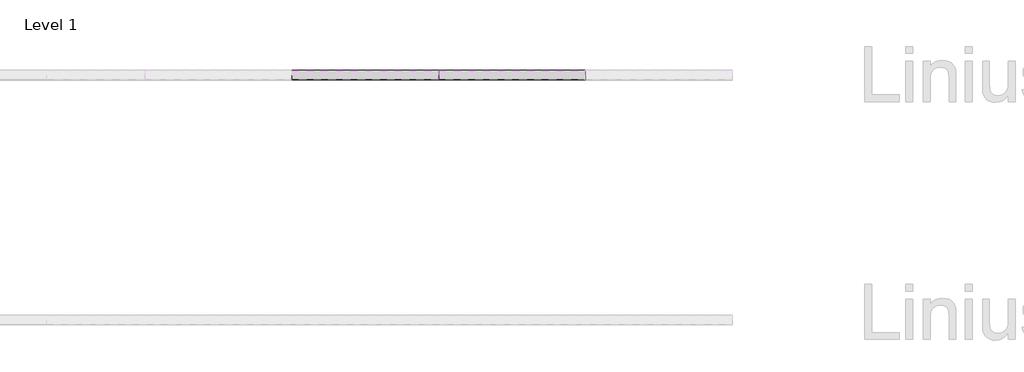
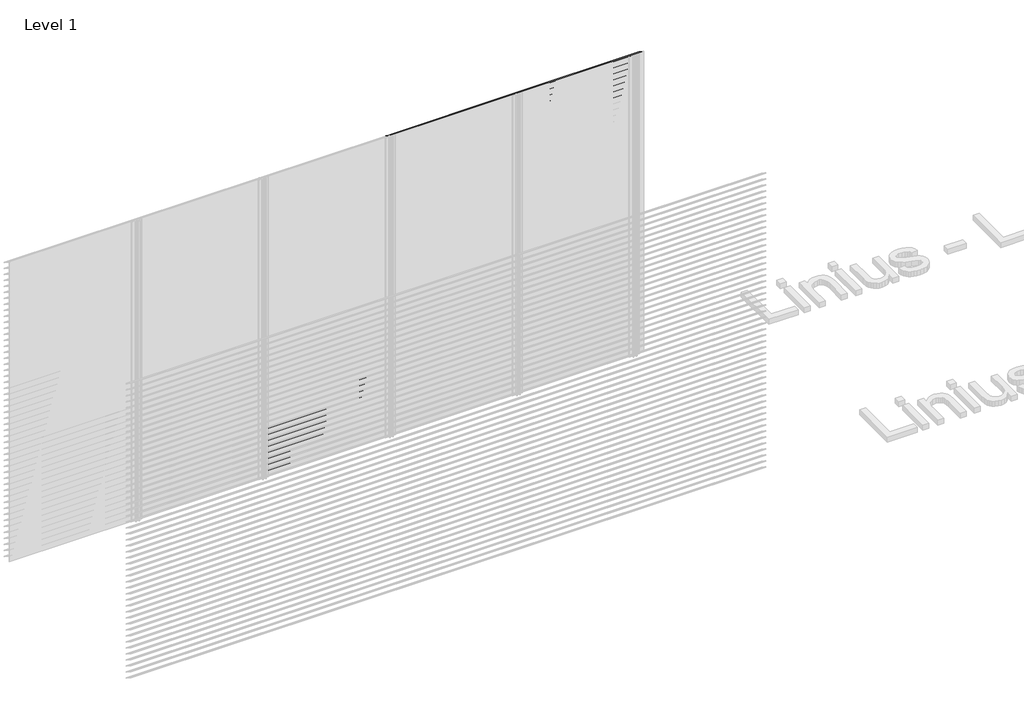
# One storey, part 9 of 153: 84 proxies.
"""IFC4 building model written with IfcOpenShell, lengths in millimetres."""

from ifc_helpers import new_model, si_unit, frame, origin, place, context, project, spatial, polyline, outline, extrude, element, save

model = new_model("IFC4")

# Units and contexts
model_context = context("Model", 3, world=origin())
ifc_project = project(units=[si_unit("LENGTHUNIT", "METRE", prefix="MILLI")], contexts=[model_context])

# Site, building, storey
site = spatial("IfcSite", under=ifc_project)
building = spatial("IfcBuilding", under=site)
storey = spatial("IfcBuildingStorey", under=building, Name="Level 1", Elevation=0.0)

# Proxies
placement = place(None, origin())
element("IfcBuildingElementProxy", 1, Name="Wall Sweeps", at=placement, inside=storey, context=model_context, shape_type="SweptSolid", body=[
    extrude(outline(polyline([(7065.0270068, 1566.0), (7065.0270068, 1560.0), (7063.7770068, 1560.7216933), (7063.7770068, 1565.2538091), (6987.0270068, 1613.9915103), (6987.0270068, 1620.0), (6988.2770068, 1620.0), (6988.2770068, 1614.7377012), (7065.0270068, 1566.0)])), frame((2866.6208097, 0.0, 0.0), z_axis=(1.0, 0.0, 0.0), x_axis=(0.0, 1.0, 0.0)), (0.0, 0.0, 1.0), 1199.9999999),
])
element("IfcBuildingElementProxy", 2, Name="Wall Sweeps", at=placement, inside=storey, context=model_context, shape_type="SweptSolid", body=[
    extrude(outline(polyline([(7065.0270068, 1506.0), (7065.0270068, 1500.0), (7063.7770068, 1500.7216933), (7063.7770068, 1505.2538091), (6987.0270068, 1553.9915103), (6987.0270068, 1560.0), (6988.2770068, 1560.0), (6988.2770068, 1554.7377012), (7065.0270068, 1506.0)])), frame((2866.6208097, 0.0, 0.0), z_axis=(1.0, 0.0, 0.0), x_axis=(0.0, 1.0, 0.0)), (0.0, 0.0, 1.0), 1199.9999999),
])
element("IfcBuildingElementProxy", 3, Name="Wall Sweeps", at=placement, inside=storey, context=model_context, shape_type="SweptSolid", body=[
    extrude(outline(polyline([(7065.0270068, 1446.0), (7065.0270068, 1440.0), (7063.7770068, 1440.7216933), (7063.7770068, 1445.2538091), (6987.0270068, 1493.9915103), (6987.0270068, 1500.0), (6988.2770068, 1500.0), (6988.2770068, 1494.7377012), (7065.0270068, 1446.0)])), frame((2866.6208097, 0.0, 0.0), z_axis=(1.0, 0.0, 0.0), x_axis=(0.0, 1.0, 0.0)), (0.0, 0.0, 1.0), 1199.9999999),
])
element("IfcBuildingElementProxy", 4, Name="Wall Sweeps", at=placement, inside=storey, context=model_context, shape_type="SweptSolid", body=[
    extrude(outline(polyline([(7065.0270068, 1386.0), (7065.0270068, 1380.0), (7063.7770068, 1380.7216933), (7063.7770068, 1385.2538091), (6987.0270068, 1433.9915103), (6987.0270068, 1440.0), (6988.2770068, 1440.0), (6988.2770068, 1434.7377012), (7065.0270068, 1386.0)])), frame((2866.6208097, 0.0, 0.0), z_axis=(1.0, 0.0, 0.0), x_axis=(0.0, 1.0, 0.0)), (0.0, 0.0, 1.0), 1199.9999999),
])
element("IfcBuildingElementProxy", 5, Name="Wall Sweeps", at=placement, inside=storey, context=model_context, shape_type="SweptSolid", body=[
    extrude(outline(polyline([(7065.0270068, 1326.0), (7065.0270068, 1320.0), (7063.7770068, 1320.7216933), (7063.7770068, 1325.2538091), (6987.0270068, 1373.9915103), (6987.0270068, 1380.0), (6988.2770068, 1380.0), (6988.2770068, 1374.7377012), (7065.0270068, 1326.0)])), frame((2866.6208097, 0.0, 0.0), z_axis=(1.0, 0.0, 0.0), x_axis=(0.0, 1.0, 0.0)), (0.0, 0.0, 1.0), 1199.9999999),
])
element("IfcBuildingElementProxy", 6, Name="Wall Sweeps", at=placement, inside=storey, context=model_context, shape_type="SweptSolid", body=[
    extrude(outline(polyline([(7065.0270068, 1266.0), (7065.0270068, 1260.0), (7063.7770068, 1260.7216933), (7063.7770068, 1265.2538091), (6987.0270068, 1313.9915103), (6987.0270068, 1320.0), (6988.2770068, 1320.0), (6988.2770068, 1314.7377012), (7065.0270068, 1266.0)])), frame((2866.6208097, 0.0, 0.0), z_axis=(1.0, 0.0, 0.0), x_axis=(0.0, 1.0, 0.0)), (0.0, 0.0, 1.0), 1199.9999999),
])
element("IfcBuildingElementProxy", 7, Name="Wall Sweeps", at=placement, inside=storey, context=model_context, shape_type="SweptSolid", body=[
    extrude(outline(polyline([(7065.0270068, 1206.0), (7065.0270068, 1200.0), (7063.7770068, 1200.7216933), (7063.7770068, 1205.2538091), (6987.0270068, 1253.9915103), (6987.0270068, 1260.0), (6988.2770068, 1260.0), (6988.2770068, 1254.7377012), (7065.0270068, 1206.0)])), frame((2866.6208097, 0.0, 0.0), z_axis=(1.0, 0.0, 0.0), x_axis=(0.0, 1.0, 0.0)), (0.0, 0.0, 1.0), 1199.9999999),
])
element("IfcBuildingElementProxy", 8, Name="Wall Sweeps", at=placement, inside=storey, context=model_context, shape_type="SweptSolid", body=[
    extrude(outline(polyline([(7065.0270068, 1146.0), (7065.0270068, 1140.0), (7063.7770068, 1140.7216933), (7063.7770068, 1145.2538091), (6987.0270068, 1193.9915103), (6987.0270068, 1200.0), (6988.2770068, 1200.0), (6988.2770068, 1194.7377012), (7065.0270068, 1146.0)])), frame((2866.6208097, 0.0, 0.0), z_axis=(1.0, 0.0, 0.0), x_axis=(0.0, 1.0, 0.0)), (0.0, 0.0, 1.0), 1199.9999999),
])
element("IfcBuildingElementProxy", 9, Name="Wall Sweeps", at=placement, inside=storey, context=model_context, shape_type="SweptSolid", body=[
    extrude(outline(polyline([(7065.0270068, 1086.0), (7065.0270068, 1080.0), (7063.7770068, 1080.7216933), (7063.7770068, 1085.2538091), (6987.0270068, 1133.9915103), (6987.0270068, 1140.0), (6988.2770068, 1140.0), (6988.2770068, 1134.7377012), (7065.0270068, 1086.0)])), frame((2866.6208097, 0.0, 0.0), z_axis=(1.0, 0.0, 0.0), x_axis=(0.0, 1.0, 0.0)), (0.0, 0.0, 1.0), 1199.9999999),
])
element("IfcBuildingElementProxy", 10, Name="Wall Sweeps", at=placement, inside=storey, context=model_context, shape_type="SweptSolid", body=[
    extrude(outline(polyline([(7065.0270068, 1026.0), (7065.0270068, 1020.0), (7063.7770068, 1020.7216933), (7063.7770068, 1025.2538091), (6987.0270068, 1073.9915103), (6987.0270068, 1080.0), (6988.2770068, 1080.0), (6988.2770068, 1074.7377012), (7065.0270068, 1026.0)])), frame((2866.6208097, 0.0, 0.0), z_axis=(1.0, 0.0, 0.0), x_axis=(0.0, 1.0, 0.0)), (0.0, 0.0, 1.0), 1199.9999999),
])
element("IfcBuildingElementProxy", 11, Name="Wall Sweeps", at=placement, inside=storey, context=model_context, shape_type="SweptSolid", body=[
    extrude(outline(polyline([(7065.0270068, 966.0), (7065.0270068, 960.0), (7063.7770068, 960.7216933), (7063.7770068, 965.2538091), (6987.0270068, 1013.9915103), (6987.0270068, 1020.0), (6988.2770068, 1020.0), (6988.2770068, 1014.7377012), (7065.0270068, 966.0)])), frame((2866.6208097, 0.0, 0.0), z_axis=(1.0, 0.0, 0.0), x_axis=(0.0, 1.0, 0.0)), (0.0, 0.0, 1.0), 1199.9999999),
])
element("IfcBuildingElementProxy", 12, Name="Wall Sweeps", at=placement, inside=storey, context=model_context, shape_type="SweptSolid", body=[
    extrude(outline(polyline([(7065.0270068, 906.0), (7065.0270068, 900.0), (7063.7770068, 900.7216933), (7063.7770068, 905.2538091), (6987.0270068, 953.9915103), (6987.0270068, 960.0), (6988.2770068, 960.0), (6988.2770068, 954.7377012), (7065.0270068, 906.0)])), frame((2866.6208097, 0.0, 0.0), z_axis=(1.0, 0.0, 0.0), x_axis=(0.0, 1.0, 0.0)), (0.0, 0.0, 1.0), 1199.9999999),
])
element("IfcBuildingElementProxy", 13, Name="Wall Sweeps", at=placement, inside=storey, context=model_context, shape_type="SweptSolid", body=[
    extrude(outline(polyline([(7065.0270068, 846.0), (7065.0270068, 840.0), (7063.7770068, 840.7216933), (7063.7770068, 845.2538091), (6987.0270068, 893.9915103), (6987.0270068, 900.0), (6988.2770068, 900.0), (6988.2770068, 894.7377012), (7065.0270068, 846.0)])), frame((2866.6208097, 0.0, 0.0), z_axis=(1.0, 0.0, 0.0), x_axis=(0.0, 1.0, 0.0)), (0.0, 0.0, 1.0), 1199.9999999),
])
element("IfcBuildingElementProxy", 14, Name="Wall Sweeps", at=placement, inside=storey, context=model_context, shape_type="SweptSolid", body=[
    extrude(outline(polyline([(7065.0270068, 786.0), (7065.0270068, 780.0), (7063.7770068, 780.7216933), (7063.7770068, 785.2538091), (6987.0270068, 833.9915103), (6987.0270068, 840.0), (6988.2770068, 840.0), (6988.2770068, 834.7377012), (7065.0270068, 786.0)])), frame((2866.6208097, 0.0, 0.0), z_axis=(1.0, 0.0, 0.0), x_axis=(0.0, 1.0, 0.0)), (0.0, 0.0, 1.0), 1199.9999999),
])
element("IfcBuildingElementProxy", 15, Name="Wall Sweeps", at=placement, inside=storey, context=model_context, shape_type="SweptSolid", body=[
    extrude(outline(polyline([(7065.0270068, 726.0), (7065.0270068, 720.0), (7063.7770068, 720.7216933), (7063.7770068, 725.2538091), (6987.0270068, 773.9915103), (6987.0270068, 780.0), (6988.2770068, 780.0), (6988.2770068, 774.7377012), (7065.0270068, 726.0)])), frame((2866.6208097, 0.0, 0.0), z_axis=(1.0, 0.0, 0.0), x_axis=(0.0, 1.0, 0.0)), (0.0, 0.0, 1.0), 1199.9999999),
])
element("IfcBuildingElementProxy", 16, Name="Wall Sweeps", at=placement, inside=storey, context=model_context, shape_type="SweptSolid", body=[
    extrude(outline(polyline([(7065.0270068, 666.0), (7065.0270068, 660.0), (7063.7770068, 660.7216933), (7063.7770068, 665.2538091), (6987.0270068, 713.9915103), (6987.0270068, 720.0), (6988.2770068, 720.0), (6988.2770068, 714.7377012), (7065.0270068, 666.0)])), frame((2866.6208097, 0.0, 0.0), z_axis=(1.0, 0.0, 0.0), x_axis=(0.0, 1.0, 0.0)), (0.0, 0.0, 1.0), 1199.9999999),
])
element("IfcBuildingElementProxy", 17, Name="Wall Sweeps", at=placement, inside=storey, context=model_context, shape_type="SweptSolid", body=[
    extrude(outline(polyline([(7065.0270068, 606.0), (7065.0270068, 600.0), (7063.7770068, 600.7216933), (7063.7770068, 605.2538091), (6987.0270068, 653.9915103), (6987.0270068, 660.0), (6988.2770068, 660.0), (6988.2770068, 654.7377012), (7065.0270068, 606.0)])), frame((2866.6208097, 0.0, 0.0), z_axis=(1.0, 0.0, 0.0), x_axis=(0.0, 1.0, 0.0)), (0.0, 0.0, 1.0), 1199.9999999),
])
element("IfcBuildingElementProxy", 18, Name="Wall Sweeps", at=placement, inside=storey, context=model_context, shape_type="SweptSolid", body=[
    extrude(outline(polyline([(7065.0270068, 546.0), (7065.0270068, 540.0), (7063.7770068, 540.7216933), (7063.7770068, 545.2538091), (6987.0270068, 593.9915103), (6987.0270068, 600.0), (6988.2770068, 600.0), (6988.2770068, 594.7377012), (7065.0270068, 546.0)])), frame((2866.6208097, 0.0, 0.0), z_axis=(1.0, 0.0, 0.0), x_axis=(0.0, 1.0, 0.0)), (0.0, 0.0, 1.0), 1199.9999999),
])
element("IfcBuildingElementProxy", 19, Name="Wall Sweeps", at=placement, inside=storey, context=model_context, shape_type="SweptSolid", body=[
    extrude(outline(polyline([(7065.0270068, 486.0), (7065.0270068, 480.0), (7063.7770068, 480.7216933), (7063.7770068, 485.2538091), (6987.0270068, 533.9915103), (6987.0270068, 540.0), (6988.2770068, 540.0), (6988.2770068, 534.7377012), (7065.0270068, 486.0)])), frame((2866.6208097, 0.0, 0.0), z_axis=(1.0, 0.0, 0.0), x_axis=(0.0, 1.0, 0.0)), (0.0, 0.0, 1.0), 1199.9999999),
])
element("IfcBuildingElementProxy", 20, Name="Wall Sweeps", at=placement, inside=storey, context=model_context, shape_type="SweptSolid", body=[
    extrude(outline(polyline([(7065.0270068, 426.0), (7065.0270068, 420.0), (7063.7770068, 420.7216933), (7063.7770068, 425.2538091), (6987.0270068, 473.9915103), (6987.0270068, 480.0), (6988.2770068, 480.0), (6988.2770068, 474.7377012), (7065.0270068, 426.0)])), frame((2866.6208097, 0.0, 0.0), z_axis=(1.0, 0.0, 0.0), x_axis=(0.0, 1.0, 0.0)), (0.0, 0.0, 1.0), 1199.9999999),
])
element("IfcBuildingElementProxy", 21, Name="Wall Sweeps", at=placement, inside=storey, context=model_context, shape_type="SweptSolid", body=[
    extrude(outline(polyline([(7065.0270068, 366.0), (7065.0270068, 360.0), (7063.7770068, 360.7216933), (7063.7770068, 365.2538091), (6987.0270068, 413.9915103), (6987.0270068, 420.0), (6988.2770068, 420.0), (6988.2770068, 414.7377012), (7065.0270068, 366.0)])), frame((2866.6208097, 0.0, 0.0), z_axis=(1.0, 0.0, 0.0), x_axis=(0.0, 1.0, 0.0)), (0.0, 0.0, 1.0), 1199.9999999),
])
element("IfcBuildingElementProxy", 22, Name="Wall Sweeps", at=placement, inside=storey, context=model_context, shape_type="SweptSolid", body=[
    extrude(outline(polyline([(7065.0270068, 306.0), (7065.0270068, 300.0), (7063.7770068, 300.7216933), (7063.7770068, 305.2538091), (6987.0270068, 353.9915103), (6987.0270068, 360.0), (6988.2770068, 360.0), (6988.2770068, 354.7377012), (7065.0270068, 306.0)])), frame((2866.6208097, 0.0, 0.0), z_axis=(1.0, 0.0, 0.0), x_axis=(0.0, 1.0, 0.0)), (0.0, 0.0, 1.0), 1199.9999999),
])
element("IfcBuildingElementProxy", 23, Name="Wall Sweeps", at=placement, inside=storey, context=model_context, shape_type="SweptSolid", body=[
    extrude(outline(polyline([(7065.0270068, 246.0), (7065.0270068, 240.0), (7063.7770068, 240.7216933), (7063.7770068, 245.2538091), (6987.0270068, 293.9915103), (6987.0270068, 300.0), (6988.2770068, 300.0), (6988.2770068, 294.7377012), (7065.0270068, 246.0)])), frame((2866.6208097, 0.0, 0.0), z_axis=(1.0, 0.0, 0.0), x_axis=(0.0, 1.0, 0.0)), (0.0, 0.0, 1.0), 1199.9999999),
])
element("IfcBuildingElementProxy", 24, Name="Wall Sweeps", at=placement, inside=storey, context=model_context, shape_type="SweptSolid", body=[
    extrude(outline(polyline([(7065.0270068, 186.0), (7065.0270068, 180.0), (7063.7770068, 180.7216933), (7063.7770068, 185.2538091), (6987.0270068, 233.9915103), (6987.0270068, 240.0), (6988.2770068, 240.0), (6988.2770068, 234.7377012), (7065.0270068, 186.0)])), frame((2866.6208097, 0.0, 0.0), z_axis=(1.0, 0.0, 0.0), x_axis=(0.0, 1.0, 0.0)), (0.0, 0.0, 1.0), 1199.9999999),
])
element("IfcBuildingElementProxy", 25, Name="Wall Sweeps", at=placement, inside=storey, context=model_context, shape_type="SweptSolid", body=[
    extrude(outline(polyline([(7065.0270068, 126.0), (7065.0270068, 120.0), (7063.7770068, 120.7216933), (7063.7770068, 125.2538091), (6987.0270068, 173.9915103), (6987.0270068, 180.0), (6988.2770068, 180.0), (6988.2770068, 174.7377012), (7065.0270068, 126.0)])), frame((2866.6208097, 0.0, 0.0), z_axis=(1.0, 0.0, 0.0), x_axis=(0.0, 1.0, 0.0)), (0.0, 0.0, 1.0), 1199.9999999),
])
element("IfcBuildingElementProxy", 26, Name="Wall Sweeps", at=placement, inside=storey, context=model_context, shape_type="SweptSolid", body=[
    extrude(outline(polyline([(7065.0270068, 66.0), (7065.0270068, 60.0), (7063.7770068, 60.7216933), (7063.7770068, 65.2538091), (6987.0270068, 113.9915103), (6987.0270068, 120.0), (6988.2770068, 120.0), (6988.2770068, 114.7377012), (7065.0270068, 66.0)])), frame((2866.6208097, 0.0, 0.0), z_axis=(1.0, 0.0, 0.0), x_axis=(0.0, 1.0, 0.0)), (0.0, 0.0, 1.0), 1199.9999999),
])
element("IfcBuildingElementProxy", 27, Name="Wall Sweeps", at=placement, inside=storey, context=model_context, shape_type="SweptSolid", body=[
    extrude(outline(polyline([(7065.0270068, 6.0), (7065.0270068, 0.0), (7063.7770068, 0.7216933), (7063.7770068, 5.2538091), (6987.0270068, 53.9915103), (6987.0270068, 60.0), (6988.2770068, 60.0), (6988.2770068, 54.7377012), (7065.0270068, 6.0)])), frame((2866.6208097, 0.0, 0.0), z_axis=(1.0, 0.0, 0.0), x_axis=(0.0, 1.0, 0.0)), (0.0, 0.0, 1.0), 1199.9999999),
])
element("IfcBuildingElementProxy", 28, Name="Wall Sweeps", at=placement, inside=storey, context=model_context, shape_type="SweptSolid", body=[
    extrude(outline(polyline([(7065.0270068, 2946.0), (7065.0270068, 2940.0), (7063.7770068, 2940.7216933), (7063.7770068, 2945.2538091), (6987.0270068, 2993.9915103), (6987.0270068, 3000.0), (6988.2770068, 3000.0), (6988.2770068, 2994.7377012), (7065.0270068, 2946.0)])), frame((4066.6208096, 0.0, 0.0), z_axis=(1.0, 0.0, 0.0), x_axis=(0.0, 1.0, 0.0)), (0.0, 0.0, 1.0), 1199.9999999),
])
element("IfcBuildingElementProxy", 29, Name="Wall Sweeps", at=placement, inside=storey, context=model_context, shape_type="SweptSolid", body=[
    extrude(outline(polyline([(7065.0270068, 2886.0), (7065.0270068, 2880.0), (7063.7770068, 2880.7216933), (7063.7770068, 2885.2538091), (6987.0270068, 2933.9915103), (6987.0270068, 2940.0), (6988.2770068, 2940.0), (6988.2770068, 2934.7377012), (7065.0270068, 2886.0)])), frame((4066.6208096, 0.0, 0.0), z_axis=(1.0, 0.0, 0.0), x_axis=(0.0, 1.0, 0.0)), (0.0, 0.0, 1.0), 1199.9999999),
])
element("IfcBuildingElementProxy", 30, Name="Wall Sweeps", at=placement, inside=storey, context=model_context, shape_type="SweptSolid", body=[
    extrude(outline(polyline([(7065.0270068, 2826.0), (7065.0270068, 2820.0), (7063.7770068, 2820.7216933), (7063.7770068, 2825.2538091), (6987.0270068, 2873.9915103), (6987.0270068, 2880.0), (6988.2770068, 2880.0), (6988.2770068, 2874.7377012), (7065.0270068, 2826.0)])), frame((4066.6208096, 0.0, 0.0), z_axis=(1.0, 0.0, 0.0), x_axis=(0.0, 1.0, 0.0)), (0.0, 0.0, 1.0), 1199.9999999),
])
element("IfcBuildingElementProxy", 31, Name="Wall Sweeps", at=placement, inside=storey, context=model_context, shape_type="SweptSolid", body=[
    extrude(outline(polyline([(7065.0270068, 2766.0), (7065.0270068, 2760.0), (7063.7770068, 2760.7216933), (7063.7770068, 2765.2538091), (6987.0270068, 2813.9915103), (6987.0270068, 2820.0), (6988.2770068, 2820.0), (6988.2770068, 2814.7377012), (7065.0270068, 2766.0)])), frame((4066.6208096, 0.0, 0.0), z_axis=(1.0, 0.0, 0.0), x_axis=(0.0, 1.0, 0.0)), (0.0, 0.0, 1.0), 1199.9999999),
])
element("IfcBuildingElementProxy", 32, Name="Wall Sweeps", at=placement, inside=storey, context=model_context, shape_type="SweptSolid", body=[
    extrude(outline(polyline([(7065.0270068, 2706.0), (7065.0270068, 2700.0), (7063.7770068, 2700.7216933), (7063.7770068, 2705.2538091), (6987.0270068, 2753.9915103), (6987.0270068, 2760.0), (6988.2770068, 2760.0), (6988.2770068, 2754.7377012), (7065.0270068, 2706.0)])), frame((4066.6208096, 0.0, 0.0), z_axis=(1.0, 0.0, 0.0), x_axis=(0.0, 1.0, 0.0)), (0.0, 0.0, 1.0), 1199.9999999),
])
element("IfcBuildingElementProxy", 33, Name="Wall Sweeps", at=placement, inside=storey, context=model_context, shape_type="SweptSolid", body=[
    extrude(outline(polyline([(7065.0270068, 2646.0), (7065.0270068, 2640.0), (7063.7770068, 2640.7216933), (7063.7770068, 2645.2538091), (6987.0270068, 2693.9915103), (6987.0270068, 2700.0), (6988.2770068, 2700.0), (6988.2770068, 2694.7377012), (7065.0270068, 2646.0)])), frame((4066.6208096, 0.0, 0.0), z_axis=(1.0, 0.0, 0.0), x_axis=(0.0, 1.0, 0.0)), (0.0, 0.0, 1.0), 1199.9999999),
])
element("IfcBuildingElementProxy", 34, Name="Wall Sweeps", at=placement, inside=storey, context=model_context, shape_type="SweptSolid", body=[
    extrude(outline(polyline([(7065.0270068, 2586.0), (7065.0270068, 2580.0), (7063.7770068, 2580.7216933), (7063.7770068, 2585.2538091), (6987.0270068, 2633.9915103), (6987.0270068, 2640.0), (6988.2770068, 2640.0), (6988.2770068, 2634.7377012), (7065.0270068, 2586.0)])), frame((4066.6208096, 0.0, 0.0), z_axis=(1.0, 0.0, 0.0), x_axis=(0.0, 1.0, 0.0)), (0.0, 0.0, 1.0), 1199.9999999),
])
element("IfcBuildingElementProxy", 35, Name="Wall Sweeps", at=placement, inside=storey, context=model_context, shape_type="SweptSolid", body=[
    extrude(outline(polyline([(7065.0270068, 2526.0), (7065.0270068, 2520.0), (7063.7770068, 2520.7216933), (7063.7770068, 2525.2538091), (6987.0270068, 2573.9915103), (6987.0270068, 2580.0), (6988.2770068, 2580.0), (6988.2770068, 2574.7377012), (7065.0270068, 2526.0)])), frame((4066.6208096, 0.0, 0.0), z_axis=(1.0, 0.0, 0.0), x_axis=(0.0, 1.0, 0.0)), (0.0, 0.0, 1.0), 1199.9999999),
])
element("IfcBuildingElementProxy", 36, Name="Wall Sweeps", at=placement, inside=storey, context=model_context, shape_type="SweptSolid", body=[
    extrude(outline(polyline([(7065.0270068, 2466.0), (7065.0270068, 2460.0), (7063.7770068, 2460.7216933), (7063.7770068, 2465.2538091), (6987.0270068, 2513.9915103), (6987.0270068, 2520.0), (6988.2770068, 2520.0), (6988.2770068, 2514.7377012), (7065.0270068, 2466.0)])), frame((4066.6208096, 0.0, 0.0), z_axis=(1.0, 0.0, 0.0), x_axis=(0.0, 1.0, 0.0)), (0.0, 0.0, 1.0), 1199.9999999),
])
element("IfcBuildingElementProxy", 37, Name="Wall Sweeps", at=placement, inside=storey, context=model_context, shape_type="SweptSolid", body=[
    extrude(outline(polyline([(7065.0270068, 2406.0), (7065.0270068, 2400.0), (7063.7770068, 2400.7216933), (7063.7770068, 2405.2538091), (6987.0270068, 2453.9915103), (6987.0270068, 2460.0), (6988.2770068, 2460.0), (6988.2770068, 2454.7377012), (7065.0270068, 2406.0)])), frame((4066.6208096, 0.0, 0.0), z_axis=(1.0, 0.0, 0.0), x_axis=(0.0, 1.0, 0.0)), (0.0, 0.0, 1.0), 1199.9999999),
])
element("IfcBuildingElementProxy", 38, Name="Wall Sweeps", at=placement, inside=storey, context=model_context, shape_type="SweptSolid", body=[
    extrude(outline(polyline([(7065.0270068, 2346.0), (7065.0270068, 2340.0), (7063.7770068, 2340.7216933), (7063.7770068, 2345.2538091), (6987.0270068, 2393.9915103), (6987.0270068, 2400.0), (6988.2770068, 2400.0), (6988.2770068, 2394.7377012), (7065.0270068, 2346.0)])), frame((4066.6208096, 0.0, 0.0), z_axis=(1.0, 0.0, 0.0), x_axis=(0.0, 1.0, 0.0)), (0.0, 0.0, 1.0), 1199.9999999),
])
element("IfcBuildingElementProxy", 39, Name="Wall Sweeps", at=placement, inside=storey, context=model_context, shape_type="SweptSolid", body=[
    extrude(outline(polyline([(7065.0270068, 2286.0), (7065.0270068, 2280.0), (7063.7770068, 2280.7216933), (7063.7770068, 2285.2538091), (6987.0270068, 2333.9915103), (6987.0270068, 2340.0), (6988.2770068, 2340.0), (6988.2770068, 2334.7377012), (7065.0270068, 2286.0)])), frame((4066.6208096, 0.0, 0.0), z_axis=(1.0, 0.0, 0.0), x_axis=(0.0, 1.0, 0.0)), (0.0, 0.0, 1.0), 1199.9999999),
])
element("IfcBuildingElementProxy", 40, Name="Wall Sweeps", at=placement, inside=storey, context=model_context, shape_type="SweptSolid", body=[
    extrude(outline(polyline([(7065.0270068, 2226.0), (7065.0270068, 2220.0), (7063.7770068, 2220.7216933), (7063.7770068, 2225.2538091), (6987.0270068, 2273.9915103), (6987.0270068, 2280.0), (6988.2770068, 2280.0), (6988.2770068, 2274.7377012), (7065.0270068, 2226.0)])), frame((4066.6208096, 0.0, 0.0), z_axis=(1.0, 0.0, 0.0), x_axis=(0.0, 1.0, 0.0)), (0.0, 0.0, 1.0), 1199.9999999),
])
element("IfcBuildingElementProxy", 41, Name="Wall Sweeps", at=placement, inside=storey, context=model_context, shape_type="SweptSolid", body=[
    extrude(outline(polyline([(7065.0270068, 2166.0), (7065.0270068, 2160.0), (7063.7770068, 2160.7216933), (7063.7770068, 2165.2538091), (6987.0270068, 2213.9915103), (6987.0270068, 2220.0), (6988.2770068, 2220.0), (6988.2770068, 2214.7377012), (7065.0270068, 2166.0)])), frame((4066.6208096, 0.0, 0.0), z_axis=(1.0, 0.0, 0.0), x_axis=(0.0, 1.0, 0.0)), (0.0, 0.0, 1.0), 1199.9999999),
])
element("IfcBuildingElementProxy", 42, Name="Wall Sweeps", at=placement, inside=storey, context=model_context, shape_type="SweptSolid", body=[
    extrude(outline(polyline([(7065.0270068, 2106.0), (7065.0270068, 2100.0), (7063.7770068, 2100.7216933), (7063.7770068, 2105.2538091), (6987.0270068, 2153.9915103), (6987.0270068, 2160.0), (6988.2770068, 2160.0), (6988.2770068, 2154.7377012), (7065.0270068, 2106.0)])), frame((4066.6208096, 0.0, 0.0), z_axis=(1.0, 0.0, 0.0), x_axis=(0.0, 1.0, 0.0)), (0.0, 0.0, 1.0), 1199.9999999),
])
element("IfcBuildingElementProxy", 43, Name="Wall Sweeps", at=placement, inside=storey, context=model_context, shape_type="SweptSolid", body=[
    extrude(outline(polyline([(7065.0270068, 2046.0), (7065.0270068, 2040.0), (7063.7770068, 2040.7216933), (7063.7770068, 2045.2538091), (6987.0270068, 2093.9915103), (6987.0270068, 2100.0), (6988.2770068, 2100.0), (6988.2770068, 2094.7377012), (7065.0270068, 2046.0)])), frame((4066.6208096, 0.0, 0.0), z_axis=(1.0, 0.0, 0.0), x_axis=(0.0, 1.0, 0.0)), (0.0, 0.0, 1.0), 1199.9999999),
])
element("IfcBuildingElementProxy", 44, Name="Wall Sweeps", at=placement, inside=storey, context=model_context, shape_type="SweptSolid", body=[
    extrude(outline(polyline([(7065.0270068, 1986.0), (7065.0270068, 1980.0), (7063.7770068, 1980.7216933), (7063.7770068, 1985.2538091), (6987.0270068, 2033.9915103), (6987.0270068, 2040.0), (6988.2770068, 2040.0), (6988.2770068, 2034.7377012), (7065.0270068, 1986.0)])), frame((4066.6208096, 0.0, 0.0), z_axis=(1.0, 0.0, 0.0), x_axis=(0.0, 1.0, 0.0)), (0.0, 0.0, 1.0), 1199.9999999),
])
element("IfcBuildingElementProxy", 45, Name="Wall Sweeps", at=placement, inside=storey, context=model_context, shape_type="SweptSolid", body=[
    extrude(outline(polyline([(7065.0270068, 1926.0), (7065.0270068, 1920.0), (7063.7770068, 1920.7216933), (7063.7770068, 1925.2538091), (6987.0270068, 1973.9915103), (6987.0270068, 1980.0), (6988.2770068, 1980.0), (6988.2770068, 1974.7377012), (7065.0270068, 1926.0)])), frame((4066.6208096, 0.0, 0.0), z_axis=(1.0, 0.0, 0.0), x_axis=(0.0, 1.0, 0.0)), (0.0, 0.0, 1.0), 1199.9999999),
])
element("IfcBuildingElementProxy", 46, Name="Wall Sweeps", at=placement, inside=storey, context=model_context, shape_type="SweptSolid", body=[
    extrude(outline(polyline([(7065.0270068, 1866.0), (7065.0270068, 1860.0), (7063.7770068, 1860.7216933), (7063.7770068, 1865.2538091), (6987.0270068, 1913.9915103), (6987.0270068, 1920.0), (6988.2770068, 1920.0), (6988.2770068, 1914.7377012), (7065.0270068, 1866.0)])), frame((4066.6208096, 0.0, 0.0), z_axis=(1.0, 0.0, 0.0), x_axis=(0.0, 1.0, 0.0)), (0.0, 0.0, 1.0), 1199.9999999),
])
element("IfcBuildingElementProxy", 47, Name="Wall Sweeps", at=placement, inside=storey, context=model_context, shape_type="SweptSolid", body=[
    extrude(outline(polyline([(7065.0270068, 1806.0), (7065.0270068, 1800.0), (7063.7770068, 1800.7216933), (7063.7770068, 1805.2538091), (6987.0270068, 1853.9915103), (6987.0270068, 1860.0), (6988.2770068, 1860.0), (6988.2770068, 1854.7377012), (7065.0270068, 1806.0)])), frame((4066.6208096, 0.0, 0.0), z_axis=(1.0, 0.0, 0.0), x_axis=(0.0, 1.0, 0.0)), (0.0, 0.0, 1.0), 1199.9999999),
])
element("IfcBuildingElementProxy", 48, Name="Wall Sweeps", at=placement, inside=storey, context=model_context, shape_type="SweptSolid", body=[
    extrude(outline(polyline([(7065.0270068, 1746.0), (7065.0270068, 1740.0), (7063.7770068, 1740.7216933), (7063.7770068, 1745.2538091), (6987.0270068, 1793.9915103), (6987.0270068, 1800.0), (6988.2770068, 1800.0), (6988.2770068, 1794.7377012), (7065.0270068, 1746.0)])), frame((4066.6208096, 0.0, 0.0), z_axis=(1.0, 0.0, 0.0), x_axis=(0.0, 1.0, 0.0)), (0.0, 0.0, 1.0), 1199.9999999),
])
element("IfcBuildingElementProxy", 49, Name="Wall Sweeps", at=placement, inside=storey, context=model_context, shape_type="SweptSolid", body=[
    extrude(outline(polyline([(7065.0270068, 1686.0), (7065.0270068, 1680.0), (7063.7770068, 1680.7216933), (7063.7770068, 1685.2538091), (6987.0270068, 1733.9915103), (6987.0270068, 1740.0), (6988.2770068, 1740.0), (6988.2770068, 1734.7377012), (7065.0270068, 1686.0)])), frame((4066.6208096, 0.0, 0.0), z_axis=(1.0, 0.0, 0.0), x_axis=(0.0, 1.0, 0.0)), (0.0, 0.0, 1.0), 1199.9999999),
])
element("IfcBuildingElementProxy", 50, Name="Wall Sweeps", at=placement, inside=storey, context=model_context, shape_type="SweptSolid", body=[
    extrude(outline(polyline([(7065.0270068, 1626.0), (7065.0270068, 1620.0), (7063.7770068, 1620.7216933), (7063.7770068, 1625.2538091), (6987.0270068, 1673.9915103), (6987.0270068, 1680.0), (6988.2770068, 1680.0), (6988.2770068, 1674.7377012), (7065.0270068, 1626.0)])), frame((4066.6208096, 0.0, 0.0), z_axis=(1.0, 0.0, 0.0), x_axis=(0.0, 1.0, 0.0)), (0.0, 0.0, 1.0), 1199.9999999),
])
element("IfcBuildingElementProxy", 51, Name="Wall Sweeps", at=placement, inside=storey, context=model_context, shape_type="SweptSolid", body=[
    extrude(outline(polyline([(7065.0270068, 1566.0), (7065.0270068, 1560.0), (7063.7770068, 1560.7216933), (7063.7770068, 1565.2538091), (6987.0270068, 1613.9915103), (6987.0270068, 1620.0), (6988.2770068, 1620.0), (6988.2770068, 1614.7377012), (7065.0270068, 1566.0)])), frame((4066.6208096, 0.0, 0.0), z_axis=(1.0, 0.0, 0.0), x_axis=(0.0, 1.0, 0.0)), (0.0, 0.0, 1.0), 1199.9999999),
])
element("IfcBuildingElementProxy", 52, Name="Wall Sweeps", at=placement, inside=storey, context=model_context, shape_type="SweptSolid", body=[
    extrude(outline(polyline([(7065.0270068, 1506.0), (7065.0270068, 1500.0), (7063.7770068, 1500.7216933), (7063.7770068, 1505.2538091), (6987.0270068, 1553.9915103), (6987.0270068, 1560.0), (6988.2770068, 1560.0), (6988.2770068, 1554.7377012), (7065.0270068, 1506.0)])), frame((4066.6208096, 0.0, 0.0), z_axis=(1.0, 0.0, 0.0), x_axis=(0.0, 1.0, 0.0)), (0.0, 0.0, 1.0), 1199.9999999),
])
element("IfcBuildingElementProxy", 53, Name="Wall Sweeps", at=placement, inside=storey, context=model_context, shape_type="SweptSolid", body=[
    extrude(outline(polyline([(7065.0270068, 1446.0), (7065.0270068, 1440.0), (7063.7770068, 1440.7216933), (7063.7770068, 1445.2538091), (6987.0270068, 1493.9915103), (6987.0270068, 1500.0), (6988.2770068, 1500.0), (6988.2770068, 1494.7377012), (7065.0270068, 1446.0)])), frame((4066.6208096, 0.0, 0.0), z_axis=(1.0, 0.0, 0.0), x_axis=(0.0, 1.0, 0.0)), (0.0, 0.0, 1.0), 1199.9999999),
])
element("IfcBuildingElementProxy", 54, Name="Wall Sweeps", at=placement, inside=storey, context=model_context, shape_type="SweptSolid", body=[
    extrude(outline(polyline([(7065.0270068, 1386.0), (7065.0270068, 1380.0), (7063.7770068, 1380.7216933), (7063.7770068, 1385.2538091), (6987.0270068, 1433.9915103), (6987.0270068, 1440.0), (6988.2770068, 1440.0), (6988.2770068, 1434.7377012), (7065.0270068, 1386.0)])), frame((4066.6208096, 0.0, 0.0), z_axis=(1.0, 0.0, 0.0), x_axis=(0.0, 1.0, 0.0)), (0.0, 0.0, 1.0), 1199.9999999),
])
element("IfcBuildingElementProxy", 55, Name="Wall Sweeps", at=placement, inside=storey, context=model_context, shape_type="SweptSolid", body=[
    extrude(outline(polyline([(7065.0270068, 1326.0), (7065.0270068, 1320.0), (7063.7770068, 1320.7216933), (7063.7770068, 1325.2538091), (6987.0270068, 1373.9915103), (6987.0270068, 1380.0), (6988.2770068, 1380.0), (6988.2770068, 1374.7377012), (7065.0270068, 1326.0)])), frame((4066.6208096, 0.0, 0.0), z_axis=(1.0, 0.0, 0.0), x_axis=(0.0, 1.0, 0.0)), (0.0, 0.0, 1.0), 1199.9999999),
])
element("IfcBuildingElementProxy", 56, Name="Wall Sweeps", at=placement, inside=storey, context=model_context, shape_type="SweptSolid", body=[
    extrude(outline(polyline([(7065.0270068, 1266.0), (7065.0270068, 1260.0), (7063.7770068, 1260.7216933), (7063.7770068, 1265.2538091), (6987.0270068, 1313.9915103), (6987.0270068, 1320.0), (6988.2770068, 1320.0), (6988.2770068, 1314.7377012), (7065.0270068, 1266.0)])), frame((4066.6208096, 0.0, 0.0), z_axis=(1.0, 0.0, 0.0), x_axis=(0.0, 1.0, 0.0)), (0.0, 0.0, 1.0), 1199.9999999),
])
element("IfcBuildingElementProxy", 57, Name="Wall Sweeps", at=placement, inside=storey, context=model_context, shape_type="SweptSolid", body=[
    extrude(outline(polyline([(7065.0270068, 1206.0), (7065.0270068, 1200.0), (7063.7770068, 1200.7216933), (7063.7770068, 1205.2538091), (6987.0270068, 1253.9915103), (6987.0270068, 1260.0), (6988.2770068, 1260.0), (6988.2770068, 1254.7377012), (7065.0270068, 1206.0)])), frame((4066.6208096, 0.0, 0.0), z_axis=(1.0, 0.0, 0.0), x_axis=(0.0, 1.0, 0.0)), (0.0, 0.0, 1.0), 1199.9999999),
])
element("IfcBuildingElementProxy", 58, Name="Wall Sweeps", at=placement, inside=storey, context=model_context, shape_type="SweptSolid", body=[
    extrude(outline(polyline([(7065.0270068, 1146.0), (7065.0270068, 1140.0), (7063.7770068, 1140.7216933), (7063.7770068, 1145.2538091), (6987.0270068, 1193.9915103), (6987.0270068, 1200.0), (6988.2770068, 1200.0), (6988.2770068, 1194.7377012), (7065.0270068, 1146.0)])), frame((4066.6208096, 0.0, 0.0), z_axis=(1.0, 0.0, 0.0), x_axis=(0.0, 1.0, 0.0)), (0.0, 0.0, 1.0), 1199.9999999),
])
element("IfcBuildingElementProxy", 59, Name="Wall Sweeps", at=placement, inside=storey, context=model_context, shape_type="SweptSolid", body=[
    extrude(outline(polyline([(7065.0270068, 1086.0), (7065.0270068, 1080.0), (7063.7770068, 1080.7216933), (7063.7770068, 1085.2538091), (6987.0270068, 1133.9915103), (6987.0270068, 1140.0), (6988.2770068, 1140.0), (6988.2770068, 1134.7377012), (7065.0270068, 1086.0)])), frame((4066.6208096, 0.0, 0.0), z_axis=(1.0, 0.0, 0.0), x_axis=(0.0, 1.0, 0.0)), (0.0, 0.0, 1.0), 1199.9999999),
])
element("IfcBuildingElementProxy", 60, Name="Wall Sweeps", at=placement, inside=storey, context=model_context, shape_type="SweptSolid", body=[
    extrude(outline(polyline([(7065.0270068, 1026.0), (7065.0270068, 1020.0), (7063.7770068, 1020.7216933), (7063.7770068, 1025.2538091), (6987.0270068, 1073.9915103), (6987.0270068, 1080.0), (6988.2770068, 1080.0), (6988.2770068, 1074.7377012), (7065.0270068, 1026.0)])), frame((4066.6208096, 0.0, 0.0), z_axis=(1.0, 0.0, 0.0), x_axis=(0.0, 1.0, 0.0)), (0.0, 0.0, 1.0), 1199.9999999),
])
element("IfcBuildingElementProxy", 61, Name="Wall Sweeps", at=placement, inside=storey, context=model_context, shape_type="SweptSolid", body=[
    extrude(outline(polyline([(7065.0270068, 966.0), (7065.0270068, 960.0), (7063.7770068, 960.7216933), (7063.7770068, 965.2538091), (6987.0270068, 1013.9915103), (6987.0270068, 1020.0), (6988.2770068, 1020.0), (6988.2770068, 1014.7377012), (7065.0270068, 966.0)])), frame((4066.6208096, 0.0, 0.0), z_axis=(1.0, 0.0, 0.0), x_axis=(0.0, 1.0, 0.0)), (0.0, 0.0, 1.0), 1199.9999999),
])
element("IfcBuildingElementProxy", 62, Name="Wall Sweeps", at=placement, inside=storey, context=model_context, shape_type="SweptSolid", body=[
    extrude(outline(polyline([(7065.0270068, 906.0), (7065.0270068, 900.0), (7063.7770068, 900.7216933), (7063.7770068, 905.2538091), (6987.0270068, 953.9915103), (6987.0270068, 960.0), (6988.2770068, 960.0), (6988.2770068, 954.7377012), (7065.0270068, 906.0)])), frame((4066.6208096, 0.0, 0.0), z_axis=(1.0, 0.0, 0.0), x_axis=(0.0, 1.0, 0.0)), (0.0, 0.0, 1.0), 1199.9999999),
])
element("IfcBuildingElementProxy", 63, Name="Wall Sweeps", at=placement, inside=storey, context=model_context, shape_type="SweptSolid", body=[
    extrude(outline(polyline([(7065.0270068, 846.0), (7065.0270068, 840.0), (7063.7770068, 840.7216933), (7063.7770068, 845.2538091), (6987.0270068, 893.9915103), (6987.0270068, 900.0), (6988.2770068, 900.0), (6988.2770068, 894.7377012), (7065.0270068, 846.0)])), frame((4066.6208096, 0.0, 0.0), z_axis=(1.0, 0.0, 0.0), x_axis=(0.0, 1.0, 0.0)), (0.0, 0.0, 1.0), 1199.9999999),
])
element("IfcBuildingElementProxy", 64, Name="Wall Sweeps", at=placement, inside=storey, context=model_context, shape_type="SweptSolid", body=[
    extrude(outline(polyline([(7065.0270068, 786.0), (7065.0270068, 780.0), (7063.7770068, 780.7216933), (7063.7770068, 785.2538091), (6987.0270068, 833.9915103), (6987.0270068, 840.0), (6988.2770068, 840.0), (6988.2770068, 834.7377012), (7065.0270068, 786.0)])), frame((4066.6208096, 0.0, 0.0), z_axis=(1.0, 0.0, 0.0), x_axis=(0.0, 1.0, 0.0)), (0.0, 0.0, 1.0), 1199.9999999),
])
element("IfcBuildingElementProxy", 65, Name="Wall Sweeps", at=placement, inside=storey, context=model_context, shape_type="SweptSolid", body=[
    extrude(outline(polyline([(7065.0270068, 726.0), (7065.0270068, 720.0), (7063.7770068, 720.7216933), (7063.7770068, 725.2538091), (6987.0270068, 773.9915103), (6987.0270068, 780.0), (6988.2770068, 780.0), (6988.2770068, 774.7377012), (7065.0270068, 726.0)])), frame((4066.6208096, 0.0, 0.0), z_axis=(1.0, 0.0, 0.0), x_axis=(0.0, 1.0, 0.0)), (0.0, 0.0, 1.0), 1199.9999999),
])
element("IfcBuildingElementProxy", 66, Name="Wall Sweeps", at=placement, inside=storey, context=model_context, shape_type="SweptSolid", body=[
    extrude(outline(polyline([(7065.0270068, 666.0), (7065.0270068, 660.0), (7063.7770068, 660.7216933), (7063.7770068, 665.2538091), (6987.0270068, 713.9915103), (6987.0270068, 720.0), (6988.2770068, 720.0), (6988.2770068, 714.7377012), (7065.0270068, 666.0)])), frame((4066.6208096, 0.0, 0.0), z_axis=(1.0, 0.0, 0.0), x_axis=(0.0, 1.0, 0.0)), (0.0, 0.0, 1.0), 1199.9999999),
])
element("IfcBuildingElementProxy", 67, Name="Wall Sweeps", at=placement, inside=storey, context=model_context, shape_type="SweptSolid", body=[
    extrude(outline(polyline([(7065.0270068, 606.0), (7065.0270068, 600.0), (7063.7770068, 600.7216933), (7063.7770068, 605.2538091), (6987.0270068, 653.9915103), (6987.0270068, 660.0), (6988.2770068, 660.0), (6988.2770068, 654.7377012), (7065.0270068, 606.0)])), frame((4066.6208096, 0.0, 0.0), z_axis=(1.0, 0.0, 0.0), x_axis=(0.0, 1.0, 0.0)), (0.0, 0.0, 1.0), 1199.9999999),
])
element("IfcBuildingElementProxy", 68, Name="Wall Sweeps", at=placement, inside=storey, context=model_context, shape_type="SweptSolid", body=[
    extrude(outline(polyline([(7065.0270068, 546.0), (7065.0270068, 540.0), (7063.7770068, 540.7216933), (7063.7770068, 545.2538091), (6987.0270068, 593.9915103), (6987.0270068, 600.0), (6988.2770068, 600.0), (6988.2770068, 594.7377012), (7065.0270068, 546.0)])), frame((4066.6208096, 0.0, 0.0), z_axis=(1.0, 0.0, 0.0), x_axis=(0.0, 1.0, 0.0)), (0.0, 0.0, 1.0), 1199.9999999),
])
element("IfcBuildingElementProxy", 69, Name="Wall Sweeps", at=placement, inside=storey, context=model_context, shape_type="SweptSolid", body=[
    extrude(outline(polyline([(7065.0270068, 486.0), (7065.0270068, 480.0), (7063.7770068, 480.7216933), (7063.7770068, 485.2538091), (6987.0270068, 533.9915103), (6987.0270068, 540.0), (6988.2770068, 540.0), (6988.2770068, 534.7377012), (7065.0270068, 486.0)])), frame((4066.6208096, 0.0, 0.0), z_axis=(1.0, 0.0, 0.0), x_axis=(0.0, 1.0, 0.0)), (0.0, 0.0, 1.0), 1199.9999999),
])
element("IfcBuildingElementProxy", 70, Name="Wall Sweeps", at=placement, inside=storey, context=model_context, shape_type="SweptSolid", body=[
    extrude(outline(polyline([(7065.0270068, 426.0), (7065.0270068, 420.0), (7063.7770068, 420.7216933), (7063.7770068, 425.2538091), (6987.0270068, 473.9915103), (6987.0270068, 480.0), (6988.2770068, 480.0), (6988.2770068, 474.7377012), (7065.0270068, 426.0)])), frame((4066.6208096, 0.0, 0.0), z_axis=(1.0, 0.0, 0.0), x_axis=(0.0, 1.0, 0.0)), (0.0, 0.0, 1.0), 1199.9999999),
])
element("IfcBuildingElementProxy", 71, Name="Wall Sweeps", at=placement, inside=storey, context=model_context, shape_type="SweptSolid", body=[
    extrude(outline(polyline([(7065.0270068, 366.0), (7065.0270068, 360.0), (7063.7770068, 360.7216933), (7063.7770068, 365.2538091), (6987.0270068, 413.9915103), (6987.0270068, 420.0), (6988.2770068, 420.0), (6988.2770068, 414.7377012), (7065.0270068, 366.0)])), frame((4066.6208096, 0.0, 0.0), z_axis=(1.0, 0.0, 0.0), x_axis=(0.0, 1.0, 0.0)), (0.0, 0.0, 1.0), 1199.9999999),
])
element("IfcBuildingElementProxy", 72, Name="Wall Sweeps", at=placement, inside=storey, context=model_context, shape_type="SweptSolid", body=[
    extrude(outline(polyline([(7065.0270068, 306.0), (7065.0270068, 300.0), (7063.7770068, 300.7216933), (7063.7770068, 305.2538091), (6987.0270068, 353.9915103), (6987.0270068, 360.0), (6988.2770068, 360.0), (6988.2770068, 354.7377012), (7065.0270068, 306.0)])), frame((4066.6208096, 0.0, 0.0), z_axis=(1.0, 0.0, 0.0), x_axis=(0.0, 1.0, 0.0)), (0.0, 0.0, 1.0), 1199.9999999),
])
element("IfcBuildingElementProxy", 73, Name="Wall Sweeps", at=placement, inside=storey, context=model_context, shape_type="SweptSolid", body=[
    extrude(outline(polyline([(7065.0270068, 246.0), (7065.0270068, 240.0), (7063.7770068, 240.7216933), (7063.7770068, 245.2538091), (6987.0270068, 293.9915103), (6987.0270068, 300.0), (6988.2770068, 300.0), (6988.2770068, 294.7377012), (7065.0270068, 246.0)])), frame((4066.6208096, 0.0, 0.0), z_axis=(1.0, 0.0, 0.0), x_axis=(0.0, 1.0, 0.0)), (0.0, 0.0, 1.0), 1199.9999999),
])
element("IfcBuildingElementProxy", 74, Name="Wall Sweeps", at=placement, inside=storey, context=model_context, shape_type="SweptSolid", body=[
    extrude(outline(polyline([(7065.0270068, 186.0), (7065.0270068, 180.0), (7063.7770068, 180.7216933), (7063.7770068, 185.2538091), (6987.0270068, 233.9915103), (6987.0270068, 240.0), (6988.2770068, 240.0), (6988.2770068, 234.7377012), (7065.0270068, 186.0)])), frame((4066.6208096, 0.0, 0.0), z_axis=(1.0, 0.0, 0.0), x_axis=(0.0, 1.0, 0.0)), (0.0, 0.0, 1.0), 1199.9999999),
])
element("IfcBuildingElementProxy", 75, Name="Wall Sweeps", at=placement, inside=storey, context=model_context, shape_type="SweptSolid", body=[
    extrude(outline(polyline([(7065.0270068, 126.0), (7065.0270068, 120.0), (7063.7770068, 120.7216933), (7063.7770068, 125.2538091), (6987.0270068, 173.9915103), (6987.0270068, 180.0), (6988.2770068, 180.0), (6988.2770068, 174.7377012), (7065.0270068, 126.0)])), frame((4066.6208096, 0.0, 0.0), z_axis=(1.0, 0.0, 0.0), x_axis=(0.0, 1.0, 0.0)), (0.0, 0.0, 1.0), 1199.9999999),
])
element("IfcBuildingElementProxy", 76, Name="Wall Sweeps", at=placement, inside=storey, context=model_context, shape_type="SweptSolid", body=[
    extrude(outline(polyline([(7065.0270068, 66.0), (7065.0270068, 60.0), (7063.7770068, 60.7216933), (7063.7770068, 65.2538091), (6987.0270068, 113.9915103), (6987.0270068, 120.0), (6988.2770068, 120.0), (6988.2770068, 114.7377012), (7065.0270068, 66.0)])), frame((4066.6208096, 0.0, 0.0), z_axis=(1.0, 0.0, 0.0), x_axis=(0.0, 1.0, 0.0)), (0.0, 0.0, 1.0), 1199.9999999),
])
element("IfcBuildingElementProxy", 77, Name="Wall Sweeps", at=placement, inside=storey, context=model_context, shape_type="SweptSolid", body=[
    extrude(outline(polyline([(7065.0270068, 6.0), (7065.0270068, 0.0), (7063.7770068, 0.7216933), (7063.7770068, 5.2538091), (6987.0270068, 53.9915103), (6987.0270068, 60.0), (6988.2770068, 60.0), (6988.2770068, 54.7377012), (7065.0270068, 6.0)])), frame((4066.6208096, 0.0, 0.0), z_axis=(1.0, 0.0, 0.0), x_axis=(0.0, 1.0, 0.0)), (0.0, 0.0, 1.0), 1199.9999999),
])
element("IfcBuildingElementProxy", 78, Name="Wall Sweeps", at=placement, inside=storey, context=model_context, shape_type="SweptSolid", body=[
    extrude(outline(polyline([(7065.0270068, 2946.0), (7065.0270068, 2940.0), (7063.7770068, 2940.7216933), (7063.7770068, 2945.2538091), (6987.0270068, 2993.9915103), (6987.0270068, 3000.0), (6988.2770068, 3000.0), (6988.2770068, 2994.7377012), (7065.0270068, 2946.0)])), frame((5266.6208095, 0.0, 0.0), z_axis=(1.0, 0.0, 0.0), x_axis=(0.0, 1.0, 0.0)), (0.0, 0.0, 1.0), 1200.0000002),
])
element("IfcBuildingElementProxy", 79, Name="Wall Sweeps", at=placement, inside=storey, context=model_context, shape_type="SweptSolid", body=[
    extrude(outline(polyline([(7065.0270068, 2886.0), (7065.0270068, 2880.0), (7063.7770068, 2880.7216933), (7063.7770068, 2885.2538091), (6987.0270068, 2933.9915103), (6987.0270068, 2940.0), (6988.2770068, 2940.0), (6988.2770068, 2934.7377012), (7065.0270068, 2886.0)])), frame((5266.6208095, 0.0, 0.0), z_axis=(1.0, 0.0, 0.0), x_axis=(0.0, 1.0, 0.0)), (0.0, 0.0, 1.0), 1200.0000002),
])
element("IfcBuildingElementProxy", 80, Name="Wall Sweeps", at=placement, inside=storey, context=model_context, shape_type="SweptSolid", body=[
    extrude(outline(polyline([(7065.0270068, 2826.0), (7065.0270068, 2820.0), (7063.7770068, 2820.7216933), (7063.7770068, 2825.2538091), (6987.0270068, 2873.9915103), (6987.0270068, 2880.0), (6988.2770068, 2880.0), (6988.2770068, 2874.7377012), (7065.0270068, 2826.0)])), frame((5266.6208095, 0.0, 0.0), z_axis=(1.0, 0.0, 0.0), x_axis=(0.0, 1.0, 0.0)), (0.0, 0.0, 1.0), 1200.0000002),
])
element("IfcBuildingElementProxy", 81, Name="Wall Sweeps", at=placement, inside=storey, context=model_context, shape_type="SweptSolid", body=[
    extrude(outline(polyline([(7065.0270068, 2766.0), (7065.0270068, 2760.0), (7063.7770068, 2760.7216933), (7063.7770068, 2765.2538091), (6987.0270068, 2813.9915103), (6987.0270068, 2820.0), (6988.2770068, 2820.0), (6988.2770068, 2814.7377012), (7065.0270068, 2766.0)])), frame((5266.6208095, 0.0, 0.0), z_axis=(1.0, 0.0, 0.0), x_axis=(0.0, 1.0, 0.0)), (0.0, 0.0, 1.0), 1200.0000002),
])
element("IfcBuildingElementProxy", 82, Name="Wall Sweeps", at=placement, inside=storey, context=model_context, shape_type="SweptSolid", body=[
    extrude(outline(polyline([(7065.0270068, 2706.0), (7065.0270068, 2700.0), (7063.7770068, 2700.7216933), (7063.7770068, 2705.2538091), (6987.0270068, 2753.9915103), (6987.0270068, 2760.0), (6988.2770068, 2760.0), (6988.2770068, 2754.7377012), (7065.0270068, 2706.0)])), frame((5266.6208095, 0.0, 0.0), z_axis=(1.0, 0.0, 0.0), x_axis=(0.0, 1.0, 0.0)), (0.0, 0.0, 1.0), 1200.0000002),
])
element("IfcBuildingElementProxy", 83, Name="Wall Sweeps", at=placement, inside=storey, context=model_context, shape_type="SweptSolid", body=[
    extrude(outline(polyline([(7065.0270068, 2646.0), (7065.0270068, 2640.0), (7063.7770068, 2640.7216933), (7063.7770068, 2645.2538091), (6987.0270068, 2693.9915103), (6987.0270068, 2700.0), (6988.2770068, 2700.0), (6988.2770068, 2694.7377012), (7065.0270068, 2646.0)])), frame((5266.6208095, 0.0, 0.0), z_axis=(1.0, 0.0, 0.0), x_axis=(0.0, 1.0, 0.0)), (0.0, 0.0, 1.0), 1200.0000002),
])
element("IfcBuildingElementProxy", 84, Name="Wall Sweeps", at=placement, inside=storey, context=model_context, shape_type="SweptSolid", body=[
    extrude(outline(polyline([(7065.0270068, 2586.0), (7065.0270068, 2580.0), (7063.7770068, 2580.7216933), (7063.7770068, 2585.2538091), (6987.0270068, 2633.9915103), (6987.0270068, 2640.0), (6988.2770068, 2640.0), (6988.2770068, 2634.7377012), (7065.0270068, 2586.0)])), frame((5266.6208095, 0.0, 0.0), z_axis=(1.0, 0.0, 0.0), x_axis=(0.0, 1.0, 0.0)), (0.0, 0.0, 1.0), 1200.0000002),
])

save(model, "model.ifc")
